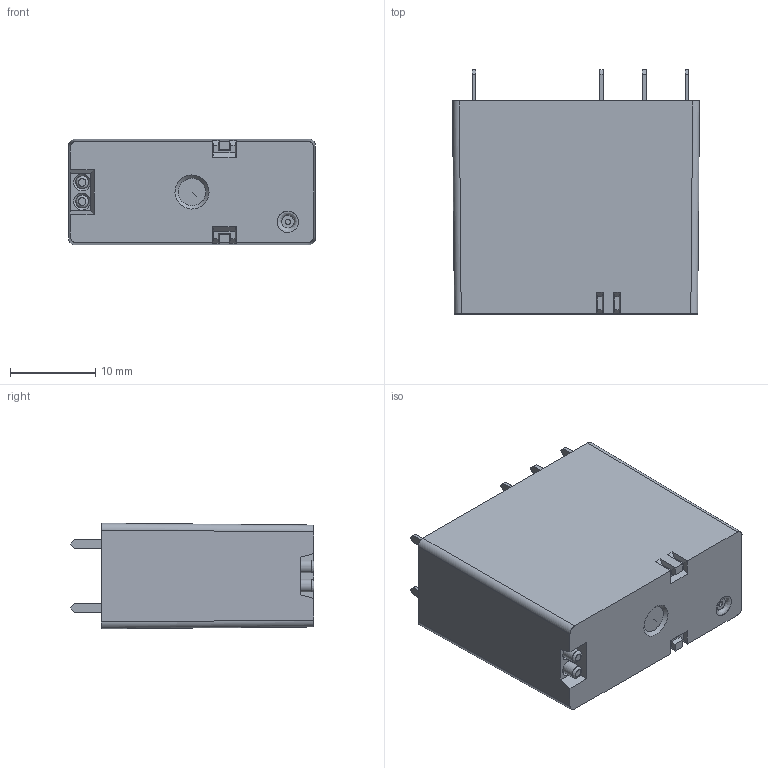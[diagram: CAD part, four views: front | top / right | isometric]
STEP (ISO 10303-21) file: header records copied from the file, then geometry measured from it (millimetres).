
FILE_DESCRIPTION(('STEP AP214'),'2;1');
FILE_NAME('40_61 o serie 42 complessivo 61.stp','2011-08-30T14:05:10',(''),(''),'2007.1.106','THINKDESIGN','');
FILE_SCHEMA(('AUTOMOTIVE_DESIGN'));
Length unit declared in the file: millimetre
Products named in the file (1): None
Bounding box: 29 x 28.65 x 12.4 mm (x, y, z)
Surface area: 4616.2 mm2 (no closed solid volume)
Topology: 0 solids, 0 shells, 143 faces, 746 edges, 727 vertices
Faces by surface type: plane 108, bspline 28, cylinder 7
Full cylindrical faces by diameter (mm): 0.6 x1, 1.5 x2
Entity records: 8293 total; most frequent: CARTESIAN_POINT 2889, DIRECTION 854, COMPOSITE_CURVE_SEGMENT 745, VECTOR 612, LINE 612, TRIMMED_CURVE 612, OUTER_BOUNDARY_CURVE 143, CURVE_BOUNDED_SURFACE 143
